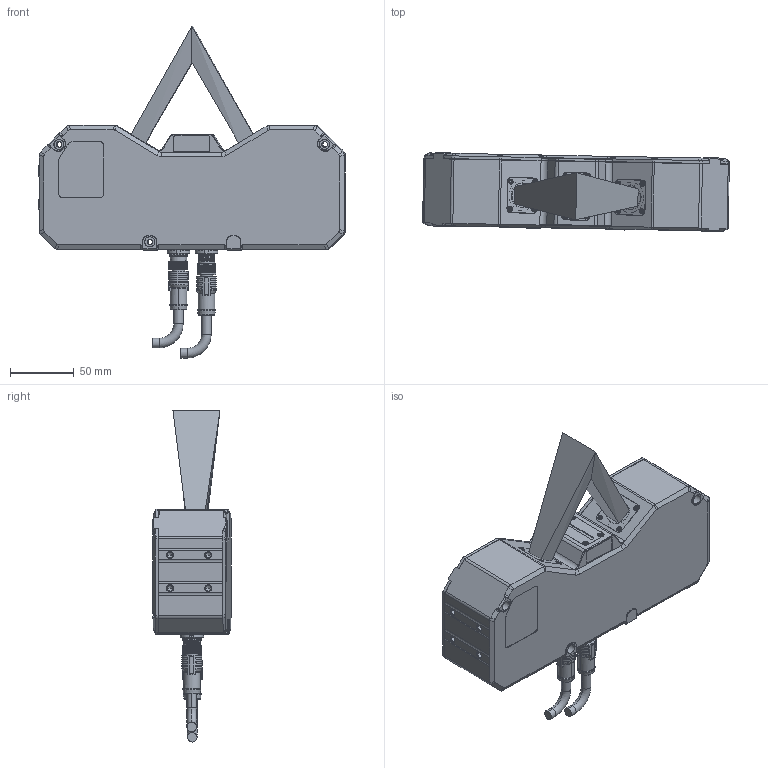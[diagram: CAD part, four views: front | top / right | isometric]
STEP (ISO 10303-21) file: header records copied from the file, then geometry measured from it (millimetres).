
FILE_DESCRIPTION((''),'2;1');
FILE_NAME('PRT0012','2026-05-23T11:04:38',('wangjiayi28'),(''),'CREO PARAMETRIC BY PTC INC, 2020044','CREO PARAMETRIC BY PTC INC, 2020044','');
FILE_SCHEMA(('AUTOMOTIVE_DESIGN { 1 0 10303 214 1 1 1 1 }'));
Products named in the file (1): PRT0012
Bounding box: 240.95 x 62.17 x 260.75 mm (x, y, z)
Volume: 3672.3 mm3; surface area: 111077.3 mm2
Topology: 2 solids, 78 shells, 2168 faces, 6607 edges, 4440 vertices
Faces by surface type: plane 1169, cylinder 574, cone 215, torus 116, bspline 92, extrusion 2
Entity records: 118117 total; most frequent: CARTESIAN_POINT 60828, ORIENTED_EDGE 11749, DIRECTION 11452, EDGE_CURVE 6569, VERTEX_POINT 4440, AXIS2_PLACEMENT_3D 4102, VECTOR 3248, LINE 3246
